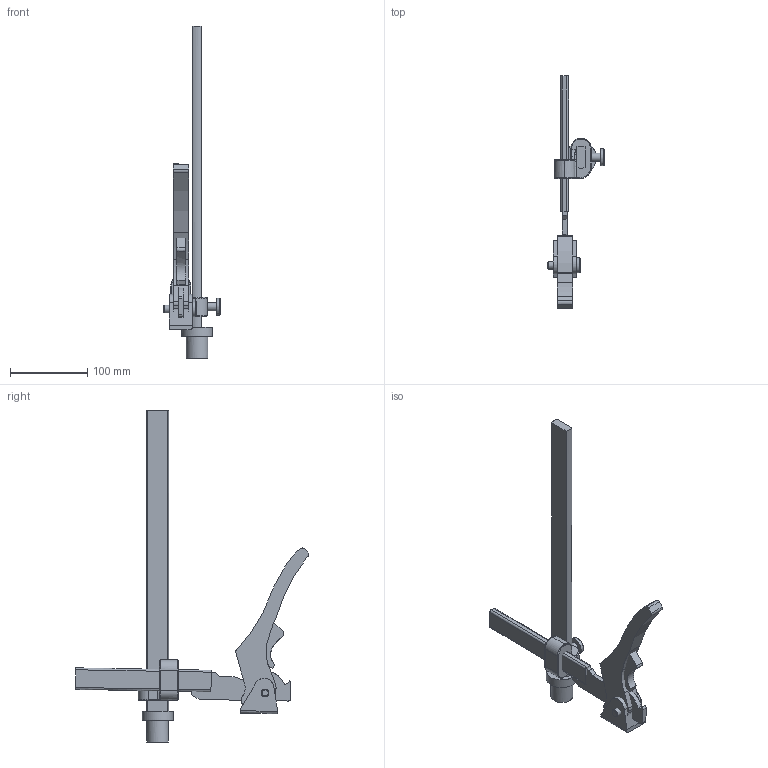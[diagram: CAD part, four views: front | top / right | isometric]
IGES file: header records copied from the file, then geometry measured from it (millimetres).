
Start section: ZWSOFT
Global section: file name: TWV28-30-17H.igs; native system: ZW3D; preprocessor: 1.0; author: ZW3D; organization: ZWSOFT; date: 140403.152233; units: millimetre
Bounding box: 73 x 301.07 x 429 mm (x, y, z)
Surface area: 108418.7 mm2 (no closed solid volume)
Topology: 0 solids, 0 shells, 166 faces, 824 edges, 801 vertices
Faces by surface type: bspline 166
